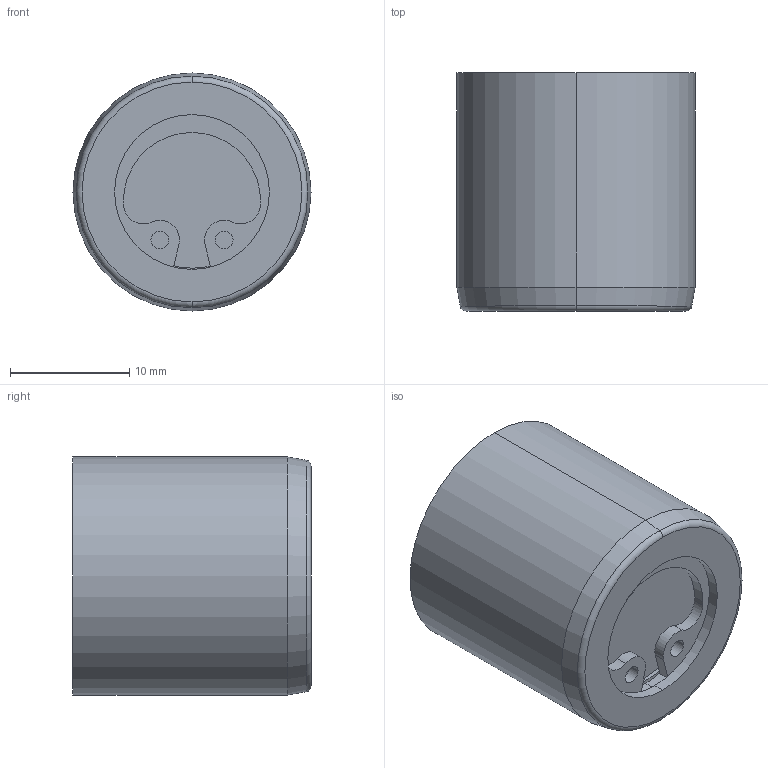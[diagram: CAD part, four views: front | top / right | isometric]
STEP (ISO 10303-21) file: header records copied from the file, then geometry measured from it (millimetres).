
FILE_DESCRIPTION (( 'STEP AP214' ), '1' );
FILE_NAME ('FV201720.STEP', '2013-06-27T09:25:18', ( '' ), ( '' ), 'SwSTEP 2.0', 'SolidWorks 2011', '' );
FILE_SCHEMA (( 'AUTOMOTIVE_DESIGN' ));
Length unit declared in the file: millimetre
Products named in the file (8): FV161320-3; FV161320-5; FV161320-6_Circlip DIN 472 - 13 x 1; FV201720-1; FV201720-2; FV161320-7_Circlip DIN 471 - 5 x 0.6; FV201720; FV161320-4
Assembly tree (7 placements, depth 2):
  FV201720
    FV201720-1
    FV201720-2
    FV161320-5
    FV161320-3
    FV161320-6_Circlip DIN 472 - 13 x 1
    FV161320-4
    FV161320-7_Circlip DIN 471 - 5 x 0.6
Bounding box: 20 x 20 x 20 mm (x, y, z)
Volume: 5528 mm3; surface area: 4507.3 mm2
Topology: 7 solids, 7 shells, 130 faces, 305 edges, 200 vertices
Faces by surface type: cylinder 71, plane 45, cone 8, torus 4, bspline 2
Entity records: 4637 total; most frequent: CARTESIAN_POINT 1115, DIRECTION 743, ORIENTED_EDGE 610, EDGE_CURVE 305, AXIS2_PLACEMENT_3D 304, VERTEX_POINT 200, CIRCLE 166, EDGE_LOOP 149
